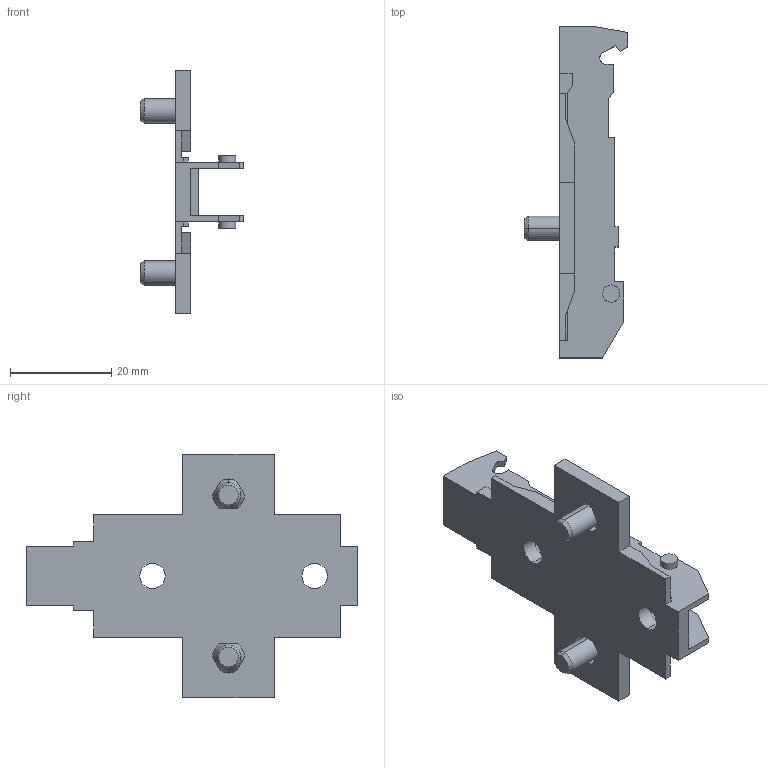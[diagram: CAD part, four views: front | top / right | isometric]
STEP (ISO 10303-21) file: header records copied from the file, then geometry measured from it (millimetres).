
FILE_DESCRIPTION (( 'STEP AP214' ), '1' );
FILE_NAME ('1D_Kreuzmontageplatte 37_32_Euro_vorgestellt 10_3.step', '2018-10-02T12:39:04', ( '' ), ( '' ), 'SwSTEP 2.0', 'SolidWorks 2017', '' );
FILE_SCHEMA (( 'AUTOMOTIVE_DESIGN' ));
Length unit declared in the file: millimetre
Products named in the file (1): 1D_Kreuzmontageplatte 37_32_Euro_vorgestellt 10_3
Bounding box: 20.5 x 65.5 x 48 mm (x, y, z)
Volume: 6449.4 mm3; surface area: 7092.4 mm2
Topology: 1 solids, 1 shells, 140 faces, 400 edges, 260 vertices
Faces by surface type: plane 94, cylinder 34, cone 12
Entity records: 4642 total; most frequent: CARTESIAN_POINT 893, ORIENTED_EDGE 800, DIRECTION 742, EDGE_CURVE 400, LINE 300, VECTOR 300, VERTEX_POINT 260, AXIS2_PLACEMENT_3D 221
